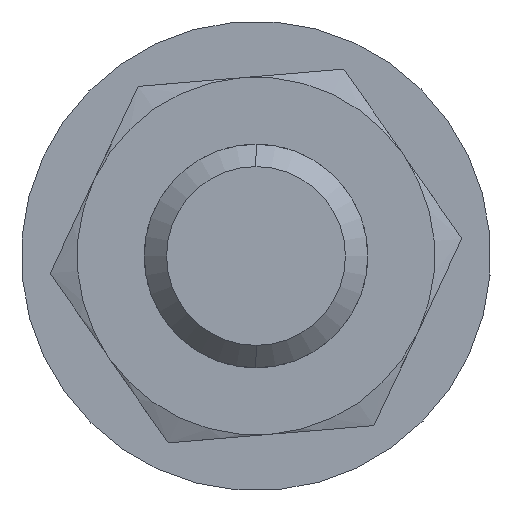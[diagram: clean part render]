
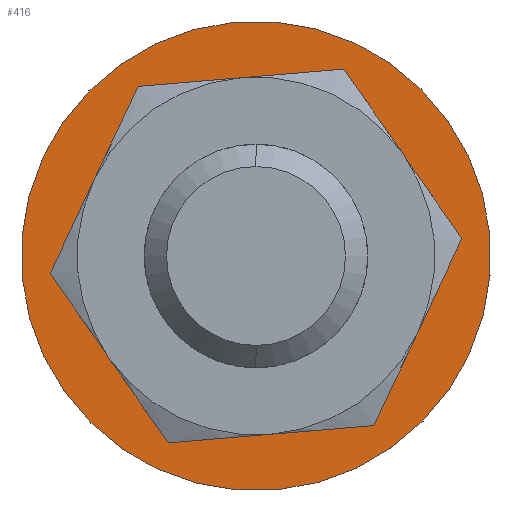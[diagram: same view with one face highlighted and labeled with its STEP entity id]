
A CAD part, front view. The second image highlights one B-rep face of the part: STEP entity #416.
In plain terms, the highlighted planar face has unit normal (0, -1, 0) as drawn and (0, 0, -1) by its records, which use the part's own axes.
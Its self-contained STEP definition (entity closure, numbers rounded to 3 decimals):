
#4 = CARTESIAN_POINT ( 'NONE',  ( -5.25, 0., 0. ) ) ;
#102 = VERTEX_POINT ( 'NONE', #4 ) ;
#141 = CARTESIAN_POINT ( 'NONE',  ( 0., 0., 0. ) ) ;
#154 = ORIENTED_EDGE ( 'NONE', *, *, #1759, .T. ) ;
#163 = CIRCLE ( 'NONE', #368, 10.5 ) ;
#178 = EDGE_LOOP ( 'NONE', ( #1530, #1537 ) ) ;
#218 = AXIS2_PLACEMENT_3D ( 'NONE', #346, #1317, #1468 ) ;
#286 = VERTEX_POINT ( 'NONE', #732 ) ;
#294 = AXIS2_PLACEMENT_3D ( 'NONE', #1774, #1096, #1346 ) ;
#324 = PLANE ( 'NONE',  #218 ) ;
#346 = CARTESIAN_POINT ( 'NONE',  ( 0., 0., 0. ) ) ;
#368 = AXIS2_PLACEMENT_3D ( 'NONE', #141, #1562, #1553 ) ;
#406 = DIRECTION ( 'NONE',  ( 1., 0., 0. ) ) ;
#416 = ADVANCED_FACE ( 'NONE', ( #1323, #1488 ), #324, .F. ) ;
#478 = CIRCLE ( 'NONE', #1272, 10.5 ) ;
#606 = CARTESIAN_POINT ( 'NONE',  ( 0., 0., 0. ) ) ;
#732 = CARTESIAN_POINT ( 'NONE',  ( 10.5, 0., 0. ) ) ;
#746 = CARTESIAN_POINT ( 'NONE',  ( -10.5, 0., 0. ) ) ;
#905 = DIRECTION ( 'NONE',  ( 1., 0., 0. ) ) ;
#1033 = EDGE_CURVE ( 'NONE', #1285, #286, #163, .T. ) ;
#1035 = CIRCLE ( 'NONE', #1792, 5.25 ) ;
#1049 = CARTESIAN_POINT ( 'NONE',  ( 5.25, 0., 0. ) ) ;
#1096 = DIRECTION ( 'NONE',  ( 0., 0., 1. ) ) ;
#1175 = DIRECTION ( 'NONE',  ( 0., 0., 1. ) ) ;
#1202 = EDGE_CURVE ( 'NONE', #286, #1285, #478, .T. ) ;
#1246 = DIRECTION ( 'NONE',  ( 0., 0., 1. ) ) ;
#1254 = ORIENTED_EDGE ( 'NONE', *, *, #1605, .T. ) ;
#1272 = AXIS2_PLACEMENT_3D ( 'NONE', #606, #1175, #905 ) ;
#1285 = VERTEX_POINT ( 'NONE', #746 ) ;
#1317 = DIRECTION ( 'NONE',  ( 0., 0., 1. ) ) ;
#1323 = FACE_OUTER_BOUND ( 'NONE', #178, .T. ) ;
#1346 = DIRECTION ( 'NONE',  ( 1., 0., 0. ) ) ;
#1364 = EDGE_LOOP ( 'NONE', ( #1254, #154 ) ) ;
#1454 = VERTEX_POINT ( 'NONE', #1049 ) ;
#1468 = DIRECTION ( 'NONE',  ( 1., 0., 0. ) ) ;
#1488 = FACE_BOUND ( 'NONE', #1364, .T. ) ;
#1513 = CARTESIAN_POINT ( 'NONE',  ( 0., 0., 0. ) ) ;
#1530 = ORIENTED_EDGE ( 'NONE', *, *, #1033, .F. ) ;
#1537 = ORIENTED_EDGE ( 'NONE', *, *, #1202, .F. ) ;
#1553 = DIRECTION ( 'NONE',  ( 1., 0., 0. ) ) ;
#1562 = DIRECTION ( 'NONE',  ( 0., 0., 1. ) ) ;
#1605 = EDGE_CURVE ( 'NONE', #102, #1454, #1755, .T. ) ;
#1755 = CIRCLE ( 'NONE', #294, 5.25 ) ;
#1759 = EDGE_CURVE ( 'NONE', #1454, #102, #1035, .T. ) ;
#1774 = CARTESIAN_POINT ( 'NONE',  ( 0., 0., 0. ) ) ;
#1792 = AXIS2_PLACEMENT_3D ( 'NONE', #1513, #1246, #406 ) ;
